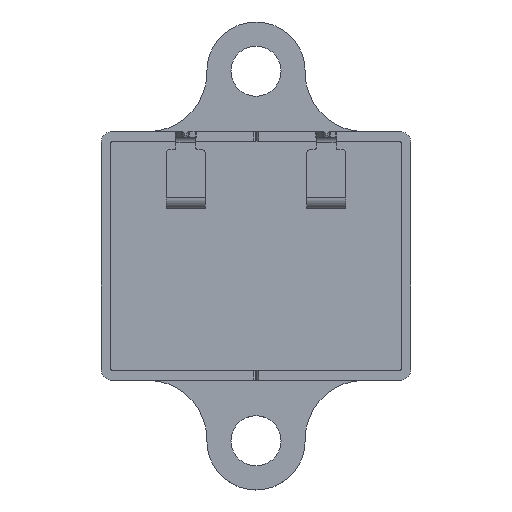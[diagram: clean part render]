
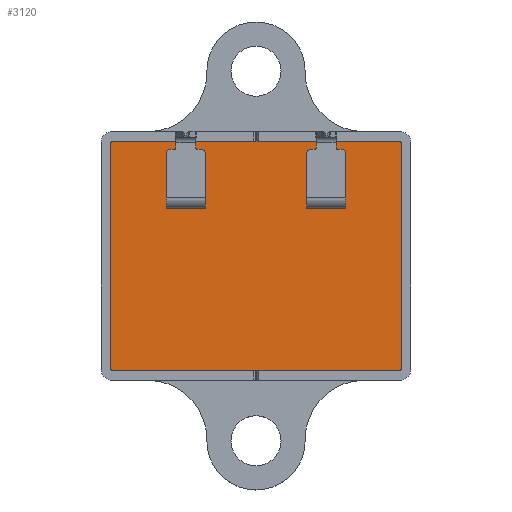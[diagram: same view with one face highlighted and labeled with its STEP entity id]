
A CAD part, top view. The second image highlights one B-rep face of the part: STEP entity #3120.
In plain terms, the highlighted planar face has unit normal (0, 0, 1).
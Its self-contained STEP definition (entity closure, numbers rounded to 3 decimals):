
#66=FACE_BOUND('',#321,.T.);
#67=FACE_BOUND('',#322,.T.);
#154=FACE_OUTER_BOUND('',#320,.T.);
#320=EDGE_LOOP('',(#2386,#2387,#2388,#2389,#2390,#2391,#2392,#2393,#2394,
#2395,#2396,#2397));
#321=EDGE_LOOP('',(#2398,#2399,#2400,#2401));
#322=EDGE_LOOP('',(#2402,#2403,#2404,#2405));
#460=CIRCLE('',#3351,0.1);
#461=CIRCLE('',#3352,0.1);
#462=CIRCLE('',#3353,0.1);
#463=CIRCLE('',#3354,0.1);
#512=LINE('',#4372,#858);
#518=LINE('',#4388,#864);
#576=LINE('',#4536,#922);
#585=LINE('',#4565,#931);
#592=LINE('',#4582,#938);
#598=LINE('',#4598,#944);
#656=LINE('',#4746,#1002);
#665=LINE('',#4775,#1011);
#687=LINE('',#4825,#1033);
#697=LINE('',#4853,#1043);
#698=LINE('',#4856,#1044);
#699=LINE('',#4858,#1045);
#700=LINE('',#4862,#1046);
#701=LINE('',#4866,#1047);
#702=LINE('',#4868,#1048);
#703=LINE('',#4870,#1049);
#858=VECTOR('',#3488,10.);
#864=VECTOR('',#3500,10.);
#922=VECTOR('',#3636,10.);
#931=VECTOR('',#3669,10.);
#938=VECTOR('',#3692,10.);
#944=VECTOR('',#3704,10.);
#1002=VECTOR('',#3840,10.);
#1011=VECTOR('',#3873,10.);
#1033=VECTOR('',#3919,10.);
#1043=VECTOR('',#3941,10.);
#1044=VECTOR('',#3944,10.);
#1045=VECTOR('',#3945,10.);
#1046=VECTOR('',#3948,10.);
#1047=VECTOR('',#3951,10.);
#1048=VECTOR('',#3952,10.);
#1049=VECTOR('',#3953,10.);
#1204=VERTEX_POINT('',#4370);
#1205=VERTEX_POINT('',#4371);
#1212=VERTEX_POINT('',#4387);
#1263=VERTEX_POINT('',#4535);
#1272=VERTEX_POINT('',#4580);
#1273=VERTEX_POINT('',#4581);
#1280=VERTEX_POINT('',#4597);
#1331=VERTEX_POINT('',#4745);
#1347=VERTEX_POINT('',#4806);
#1355=VERTEX_POINT('',#4823);
#1366=VERTEX_POINT('',#4851);
#1367=VERTEX_POINT('',#4852);
#1368=VERTEX_POINT('',#4854);
#1369=VERTEX_POINT('',#4857);
#1370=VERTEX_POINT('',#4859);
#1371=VERTEX_POINT('',#4861);
#1372=VERTEX_POINT('',#4863);
#1373=VERTEX_POINT('',#4865);
#1374=VERTEX_POINT('',#4867);
#1375=VERTEX_POINT('',#4869);
#1496=EDGE_CURVE('',#1204,#1205,#512,.T.);
#1504=EDGE_CURVE('',#1212,#1204,#518,.T.);
#1577=EDGE_CURVE('',#1205,#1263,#576,.T.);
#1593=EDGE_CURVE('',#1263,#1212,#585,.T.);
#1600=EDGE_CURVE('',#1272,#1273,#592,.T.);
#1608=EDGE_CURVE('',#1280,#1272,#598,.T.);
#1681=EDGE_CURVE('',#1273,#1331,#656,.T.);
#1697=EDGE_CURVE('',#1331,#1280,#665,.T.);
#1721=EDGE_CURVE('',#1355,#1347,#687,.T.);
#1733=EDGE_CURVE('',#1366,#1367,#697,.T.);
#1734=EDGE_CURVE('',#1368,#1366,#460,.T.);
#1735=EDGE_CURVE('',#1347,#1368,#698,.T.);
#1736=EDGE_CURVE('',#1369,#1355,#699,.T.);
#1737=EDGE_CURVE('',#1370,#1369,#461,.T.);
#1738=EDGE_CURVE('',#1371,#1370,#700,.T.);
#1739=EDGE_CURVE('',#1372,#1371,#462,.T.);
#1740=EDGE_CURVE('',#1373,#1372,#701,.T.);
#1741=EDGE_CURVE('',#1374,#1373,#702,.T.);
#1742=EDGE_CURVE('',#1375,#1374,#703,.T.);
#1743=EDGE_CURVE('',#1367,#1375,#463,.T.);
#2386=ORIENTED_EDGE('',*,*,#1733,.F.);
#2387=ORIENTED_EDGE('',*,*,#1734,.F.);
#2388=ORIENTED_EDGE('',*,*,#1735,.F.);
#2389=ORIENTED_EDGE('',*,*,#1721,.F.);
#2390=ORIENTED_EDGE('',*,*,#1736,.F.);
#2391=ORIENTED_EDGE('',*,*,#1737,.F.);
#2392=ORIENTED_EDGE('',*,*,#1738,.F.);
#2393=ORIENTED_EDGE('',*,*,#1739,.F.);
#2394=ORIENTED_EDGE('',*,*,#1740,.F.);
#2395=ORIENTED_EDGE('',*,*,#1741,.F.);
#2396=ORIENTED_EDGE('',*,*,#1742,.F.);
#2397=ORIENTED_EDGE('',*,*,#1743,.F.);
#2398=ORIENTED_EDGE('',*,*,#1504,.T.);
#2399=ORIENTED_EDGE('',*,*,#1496,.T.);
#2400=ORIENTED_EDGE('',*,*,#1577,.T.);
#2401=ORIENTED_EDGE('',*,*,#1593,.T.);
#2402=ORIENTED_EDGE('',*,*,#1608,.T.);
#2403=ORIENTED_EDGE('',*,*,#1600,.T.);
#2404=ORIENTED_EDGE('',*,*,#1681,.T.);
#2405=ORIENTED_EDGE('',*,*,#1697,.T.);
#2902=PLANE('',#3350);
#3120=ADVANCED_FACE('',(#154,#66,#67),#2902,.T.);
#3350=AXIS2_PLACEMENT_3D('',#4850,#3939,#3940);
#3351=AXIS2_PLACEMENT_3D('',#4855,#3942,#3943);
#3352=AXIS2_PLACEMENT_3D('',#4860,#3946,#3947);
#3353=AXIS2_PLACEMENT_3D('',#4864,#3949,#3950);
#3354=AXIS2_PLACEMENT_3D('',#4871,#3954,#3955);
#3488=DIRECTION('',(0.,-1.,0.));
#3500=DIRECTION('',(1.,0.,0.));
#3636=DIRECTION('',(-1.,0.,0.));
#3669=DIRECTION('',(0.,1.,0.));
#3692=DIRECTION('',(0.,-1.,0.));
#3704=DIRECTION('',(1.,0.,0.));
#3840=DIRECTION('',(-1.,0.,0.));
#3873=DIRECTION('',(0.,1.,0.));
#3919=DIRECTION('',(1.,0.,0.));
#3939=DIRECTION('center_axis',(0.,0.,1.));
#3940=DIRECTION('ref_axis',(-1.,0.,0.));
#3941=DIRECTION('',(0.,-1.,0.));
#3942=DIRECTION('center_axis',(0.,0.,-1.));
#3943=DIRECTION('ref_axis',(1.,0.,0.));
#3944=DIRECTION('',(1.,0.,0.));
#3945=DIRECTION('',(1.,0.,0.));
#3946=DIRECTION('center_axis',(0.,0.,-1.));
#3947=DIRECTION('ref_axis',(0.,1.,0.));
#3948=DIRECTION('',(0.,1.,0.));
#3949=DIRECTION('center_axis',(0.,0.,-1.));
#3950=DIRECTION('ref_axis',(-1.,0.,0.));
#3951=DIRECTION('',(-1.,0.,0.));
#3952=DIRECTION('',(-1.,0.,0.));
#3953=DIRECTION('',(-1.,0.,0.));
#3954=DIRECTION('center_axis',(0.,0.,-1.));
#3955=DIRECTION('ref_axis',(0.,-1.,0.));
#4370=CARTESIAN_POINT('',(2.,1.85,5.43));
#4371=CARTESIAN_POINT('',(2.,1.35,5.43));
#4372=CARTESIAN_POINT('',(2.,-1.05,5.43));
#4387=CARTESIAN_POINT('',(-2.,1.85,5.43));
#4388=CARTESIAN_POINT('',(3.575,1.85,5.43));
#4535=CARTESIAN_POINT('',(-2.,1.35,5.43));
#4536=CARTESIAN_POINT('',(3.575,1.35,5.43));
#4565=CARTESIAN_POINT('',(-2.,-1.05,5.43));
#4580=CARTESIAN_POINT('',(16.3,1.85,5.43));
#4581=CARTESIAN_POINT('',(16.3,1.35,5.43));
#4582=CARTESIAN_POINT('',(16.3,-1.05,5.43));
#4597=CARTESIAN_POINT('',(12.3,1.85,5.43));
#4598=CARTESIAN_POINT('',(10.725,1.85,5.43));
#4745=CARTESIAN_POINT('',(12.3,1.35,5.43));
#4746=CARTESIAN_POINT('',(10.725,1.35,5.43));
#4775=CARTESIAN_POINT('',(12.3,-1.05,5.43));
#4806=CARTESIAN_POINT('',(7.4,8.2,5.43));
#4823=CARTESIAN_POINT('',(6.9,8.2,5.43));
#4825=CARTESIAN_POINT('',(-0.175,8.2,5.43));
#4850=CARTESIAN_POINT('Origin',(7.15,-3.45,5.43));
#4851=CARTESIAN_POINT('',(21.9,8.1,5.43));
#4852=CARTESIAN_POINT('',(21.9,-15.,5.43));
#4853=CARTESIAN_POINT('',(21.9,2.322,5.43));
#4854=CARTESIAN_POINT('',(21.8,8.2,5.43));
#4855=CARTESIAN_POINT('Origin',(21.8,8.1,5.43));
#4856=CARTESIAN_POINT('',(14.475,8.2,5.43));
#4857=CARTESIAN_POINT('',(-7.5,8.2,5.43));
#4858=CARTESIAN_POINT('',(7.1,8.2,5.43));
#4859=CARTESIAN_POINT('',(-7.6,8.1,5.43));
#4860=CARTESIAN_POINT('Origin',(-7.5,8.1,5.43));
#4861=CARTESIAN_POINT('',(-7.6,-15.,5.43));
#4862=CARTESIAN_POINT('',(-7.6,-9.222,5.43));
#4863=CARTESIAN_POINT('',(-7.5,-15.1,5.43));
#4864=CARTESIAN_POINT('Origin',(-7.5,-15.,5.43));
#4865=CARTESIAN_POINT('',(6.9,-15.1,5.43));
#4866=CARTESIAN_POINT('',(-0.175,-15.1,5.43));
#4867=CARTESIAN_POINT('',(7.4,-15.1,5.43));
#4868=CARTESIAN_POINT('',(14.475,-15.1,5.43));
#4869=CARTESIAN_POINT('',(21.8,-15.1,5.43));
#4870=CARTESIAN_POINT('',(7.2,-15.1,5.43));
#4871=CARTESIAN_POINT('Origin',(21.8,-15.,5.43));
